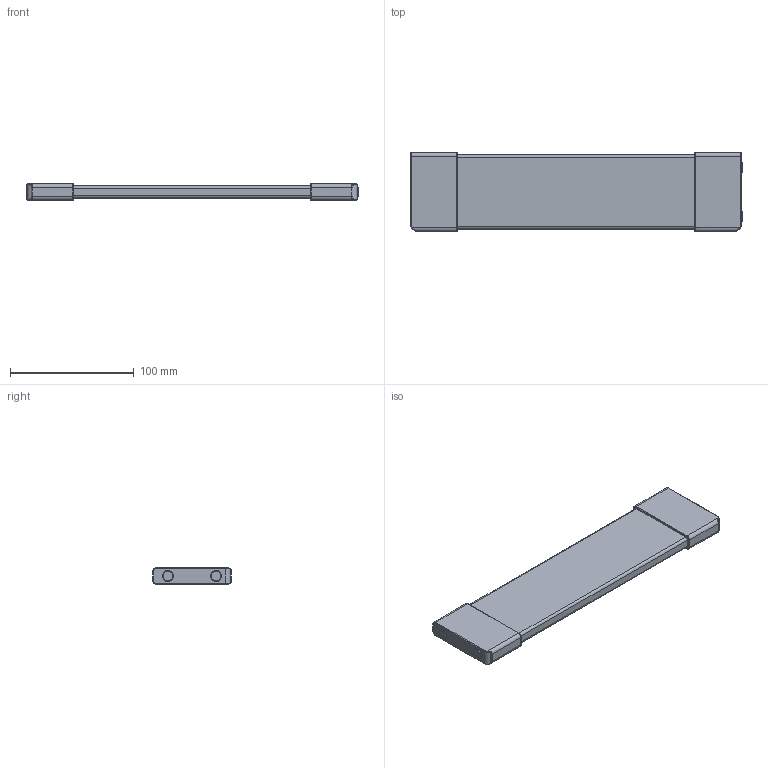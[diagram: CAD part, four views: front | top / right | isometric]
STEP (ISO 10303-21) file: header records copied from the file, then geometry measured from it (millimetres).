
FILE_DESCRIPTION (( 'STEP AP214' ), '1' );
FILE_NAME ('Schubkastenteiler_PROKAB_350.step', '2009-11-04T15:16:38', ( 'Waldinger Reinhard' ), ( 'Grass GmbH' ), 'SwSTEP 2.0', 'SolidWorks 2009', '' );
FILE_SCHEMA (( 'AUTOMOTIVE_DESIGN' ));
Length unit declared in the file: millimetre
Products named in the file (1): Schubkastenteiler_PROKAB_350
Bounding box: 267.9 x 63.7 x 13 mm (x, y, z)
Volume: 173064.4 mm3; surface area: 39110.5 mm2
Topology: 1 solids, 1 shells, 92 faces, 208 edges, 124 vertices
Faces by surface type: cylinder 38, torus 28, plane 22, bspline 4
Entity records: 3210 total; most frequent: CARTESIAN_POINT 1069, DIRECTION 486, ORIENTED_EDGE 416, EDGE_CURVE 208, AXIS2_PLACEMENT_3D 205, VERTEX_POINT 124, CIRCLE 116, EDGE_LOOP 98
